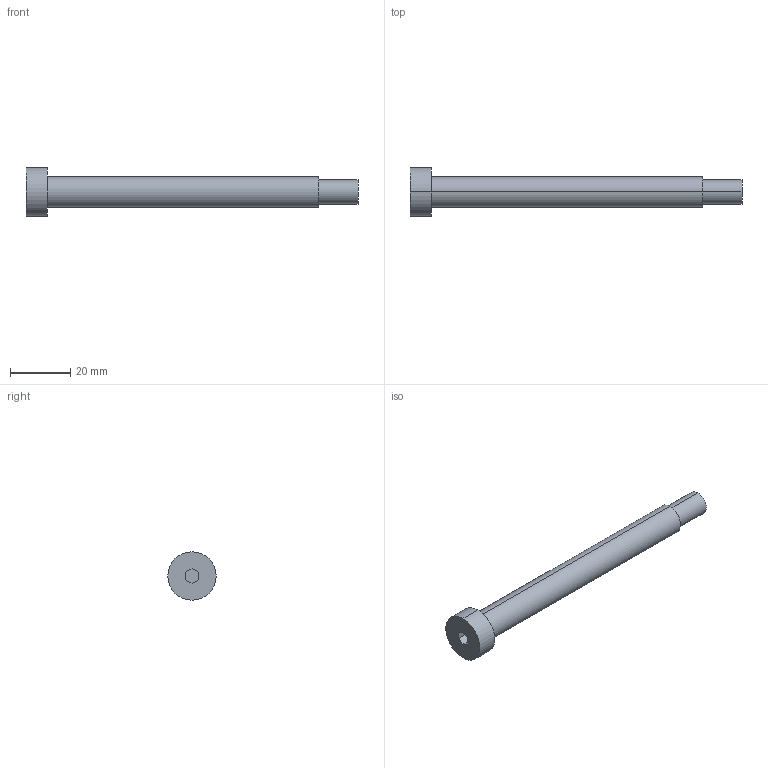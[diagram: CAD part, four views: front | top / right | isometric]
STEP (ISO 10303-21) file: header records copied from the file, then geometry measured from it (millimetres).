
FILE_DESCRIPTION (( 'STEP AP214' ), '1' );
FILE_NAME ('TPM-8x90.STEP', '2020-07-06T13:17:45', ( '' ), ( '' ), 'SwSTEP 2.0', 'SolidWorks 2018', '' );
FILE_SCHEMA (( 'AUTOMOTIVE_DESIGN' ));
Length unit declared in the file: millimetre
Products named in the file (1): TPM-8x90
Bounding box: 110 x 16 x 16 mm (x, y, z)
Volume: 9048.3 mm3; surface area: 3983.1 mm2
Topology: 1 solids, 1 shells, 17 faces, 36 edges, 24 vertices
Faces by surface type: plane 11, cylinder 6
Entity records: 496 total; most frequent: DIRECTION 84, CARTESIAN_POINT 78, ORIENTED_EDGE 72, EDGE_CURVE 36, AXIS2_PLACEMENT_3D 30, LINE 24, VECTOR 24, VERTEX_POINT 24
